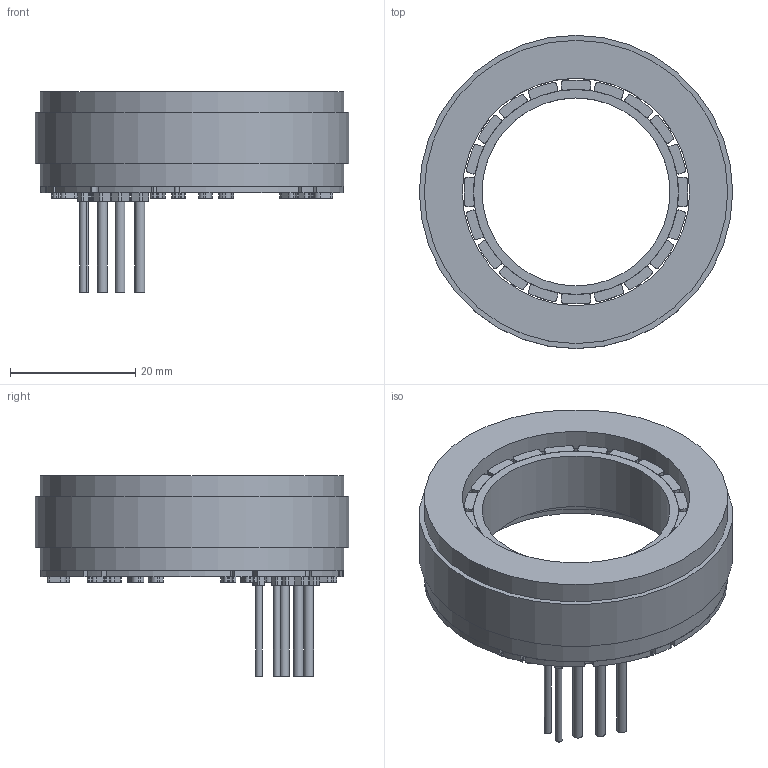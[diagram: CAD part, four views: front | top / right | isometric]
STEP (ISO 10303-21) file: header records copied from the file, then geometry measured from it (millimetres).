
FILE_DESCRIPTION( ('This file contains a STEP AP42 implementation' ,'as created by ZW3D STEP Interface translator.') ,'2;1' );
FILE_NAME( '5008摩笢堤盄唳.stp' ,'26 124.11 113', (''), ('ZWCAD Software Co.'), 'Version 1.0', 'ZW3D to STEP translator', '' );
FILE_SCHEMA(('AUTOMOTIVE_DESIGN { 1 0 10303 214 1 1 1 1 }'));
Length unit declared in the file: millimetre
Products named in the file (4): 0; 5008摩笢堤盄唳; 5008隅赽_4; 5008蛌赽_4
Assembly tree (2 placements, depth 2):
  0
  5008摩笢堤盄唳
    5008隅赽_4
    5008蛌赽_4
Bounding box: 50 x 50 x 32 mm (x, y, z)
Volume: 16817.9 mm3; surface area: 16286.8 mm2
Topology: 25 solids, 25 shells, 518 faces, 1338 edges, 880 vertices
Faces by surface type: plane 266, cylinder 252
Full cylindrical faces by diameter (mm): 1.1 x2, 1.56 x3, 30 x1, 32.7 x1, 36.3 x3, 36.7 x1, 48.4 x2, 50 x1
Entity records: 16633 total; most frequent: DIRECTION 2916, CARTESIAN_POINT 2743, ORIENTED_EDGE 2676, EDGE_CURVE 1338, AXIS2_PLACEMENT_3D 1053, VERTEX_POINT 880, VECTOR 810, LINE 810
